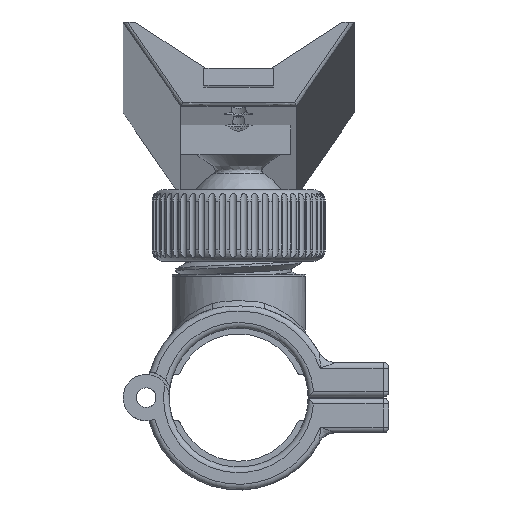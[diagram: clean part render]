
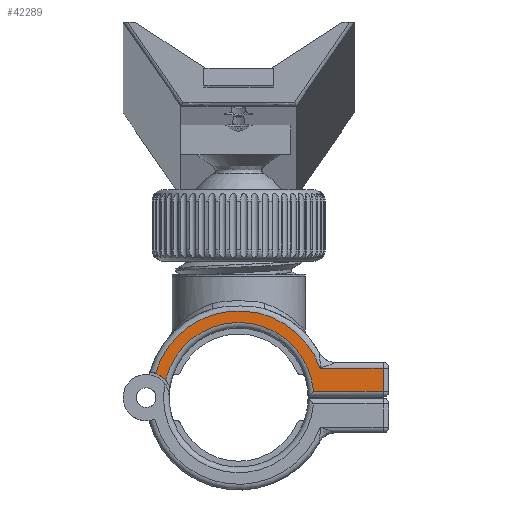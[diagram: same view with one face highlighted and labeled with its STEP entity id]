
A CAD part, left-side view. The second image highlights one B-rep face of the part: STEP entity #42289.
In plain terms, the highlighted planar face has unit normal (-1, 0, 0).
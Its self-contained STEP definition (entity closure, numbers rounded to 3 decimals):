
#38614 = TOROIDAL_SURFACE('',#38615,13.,1.);
#38615 = AXIS2_PLACEMENT_3D('',#38616,#38617,#38618);
#38616 = CARTESIAN_POINT('',(1.,0.,0.));
#38617 = DIRECTION('',(1.,0.,0.));
#38618 = DIRECTION('',(0.,0.989,0.148));
#38854 = CYLINDRICAL_SURFACE('',#38855,4.5);
#38855 = AXIS2_PLACEMENT_3D('',#38856,#38857,#38858);
#38856 = CARTESIAN_POINT('',(0.,16.,0.));
#38857 = DIRECTION('',(-1.,-0.,-0.));
#38858 = DIRECTION('',(0.,1.,0.));
#39251 = VERTEX_POINT('',#39252);
#39252 = CARTESIAN_POINT('',(0.,-12.953,1.1));
#39312 = CYLINDRICAL_SURFACE('',#39313,1.);
#39313 = AXIS2_PLACEMENT_3D('',#39314,#39315,#39316);
#39314 = CARTESIAN_POINT('',(1.,-12.,1.1));
#39315 = DIRECTION('',(0.,-1.,0.));
#39316 = DIRECTION('',(-1.,0.,0.));
#39347 = EDGE_CURVE('',#39348,#39251,#39350,.T.);
#39348 = VERTEX_POINT('',#39349);
#39349 = CARTESIAN_POINT('',(0.,12.648,3.003));
#39350 = SURFACE_CURVE('',#39351,(#39356,#39363),.PCURVE_S1.);
#39351 = CIRCLE('',#39352,13.);
#39352 = AXIS2_PLACEMENT_3D('',#39353,#39354,#39355);
#39353 = CARTESIAN_POINT('',(0.,0.,0.));
#39354 = DIRECTION('',(1.,0.,-0.));
#39355 = DIRECTION('',(0.,0.989,0.148));
#39356 = PCURVE('',#38614,#39357);
#39357 = DEFINITIONAL_REPRESENTATION('',(#39358),#39362);
#39358 = LINE('',#39359,#39360);
#39359 = CARTESIAN_POINT('',(0.,4.712));
#39360 = VECTOR('',#39361,1.);
#39361 = DIRECTION('',(1.,0.));
#39362 = ( GEOMETRIC_REPRESENTATION_CONTEXT(2) 
PARAMETRIC_REPRESENTATION_CONTEXT() REPRESENTATION_CONTEXT('2D SPACE',''
  ) );
#39363 = PCURVE('',#39364,#39369);
#39364 = PLANE('',#39365);
#39365 = AXIS2_PLACEMENT_3D('',#39366,#39367,#39368);
#39366 = CARTESIAN_POINT('',(0.,-5.37,7.352));
#39367 = DIRECTION('',(-1.,0.,-0.));
#39368 = DIRECTION('',(0.,1.,0.));
#39369 = DEFINITIONAL_REPRESENTATION('',(#39370),#39378);
#39370 = ( BOUNDED_CURVE() B_SPLINE_CURVE(2,(#39371,#39372,#39373,#39374
    ,#39375,#39376,#39377),.UNSPECIFIED.,.T.,.F.) 
B_SPLINE_CURVE_WITH_KNOTS((1,2,2,2,2,1),(-2.094,0.,
    2.094,4.189,6.283,8.378),
.UNSPECIFIED.) CURVE() GEOMETRIC_REPRESENTATION_ITEM() 
RATIONAL_B_SPLINE_CURVE((1.,0.5,1.,0.5,1.,0.5,1.)) REPRESENTATION_ITEM(
  '') );
#39371 = CARTESIAN_POINT('',(18.226,5.423));
#39372 = CARTESIAN_POINT('',(14.885,-16.845));
#39373 = CARTESIAN_POINT('',(-2.729,-2.818));
#39374 = CARTESIAN_POINT('',(-20.343,11.209));
#39375 = CARTESIAN_POINT('',(0.612,19.45));
#39376 = CARTESIAN_POINT('',(21.567,27.69));
#39377 = CARTESIAN_POINT('',(18.226,5.423));
#39378 = ( GEOMETRIC_REPRESENTATION_CONTEXT(2) 
PARAMETRIC_REPRESENTATION_CONTEXT() REPRESENTATION_CONTEXT('2D SPACE',''
  ) );
#39476 = EDGE_CURVE('',#39477,#39348,#39479,.T.);
#39477 = VERTEX_POINT('',#39478);
#39478 = CARTESIAN_POINT('',(0.,14.398,4.205));
#39479 = SURFACE_CURVE('',#39480,(#39485,#39492),.PCURVE_S1.);
#39480 = CIRCLE('',#39481,4.5);
#39481 = AXIS2_PLACEMENT_3D('',#39482,#39483,#39484);
#39482 = CARTESIAN_POINT('',(0.,16.,0.));
#39483 = DIRECTION('',(1.,0.,0.));
#39484 = DIRECTION('',(0.,1.,0.));
#39485 = PCURVE('',#38854,#39486);
#39486 = DEFINITIONAL_REPRESENTATION('',(#39487),#39491);
#39487 = LINE('',#39488,#39489);
#39488 = CARTESIAN_POINT('',(-0.,0.));
#39489 = VECTOR('',#39490,1.);
#39490 = DIRECTION('',(-1.,0.));
#39491 = ( GEOMETRIC_REPRESENTATION_CONTEXT(2) 
PARAMETRIC_REPRESENTATION_CONTEXT() REPRESENTATION_CONTEXT('2D SPACE',''
  ) );
#39492 = PCURVE('',#39364,#39493);
#39493 = DEFINITIONAL_REPRESENTATION('',(#39494),#39502);
#39494 = ( BOUNDED_CURVE() B_SPLINE_CURVE(2,(#39495,#39496,#39497,#39498
    ,#39499,#39500,#39501),.UNSPECIFIED.,.T.,.F.) 
B_SPLINE_CURVE_WITH_KNOTS((1,2,2,2,2,1),(-2.094,0.,
    2.094,4.189,6.283,8.378),
.UNSPECIFIED.) CURVE() GEOMETRIC_REPRESENTATION_ITEM() 
RATIONAL_B_SPLINE_CURVE((1.,0.5,1.,0.5,1.,0.5,1.)) REPRESENTATION_ITEM(
  '') );
#39495 = CARTESIAN_POINT('',(25.87,7.352));
#39496 = CARTESIAN_POINT('',(25.87,-0.443));
#39497 = CARTESIAN_POINT('',(19.12,3.454));
#39498 = CARTESIAN_POINT('',(12.37,7.352));
#39499 = CARTESIAN_POINT('',(19.12,11.249));
#39500 = CARTESIAN_POINT('',(25.87,15.146));
#39501 = CARTESIAN_POINT('',(25.87,7.352));
#39502 = ( GEOMETRIC_REPRESENTATION_CONTEXT(2) 
PARAMETRIC_REPRESENTATION_CONTEXT() REPRESENTATION_CONTEXT('2D SPACE',''
  ) );
#39558 = TOROIDAL_SURFACE('',#39559,15.,1.);
#39559 = AXIS2_PLACEMENT_3D('',#39560,#39561,#39562);
#39560 = CARTESIAN_POINT('',(1.,0.,0.));
#39561 = DIRECTION('',(-1.,0.,-0.));
#39562 = DIRECTION('',(0.,0.96,0.278));
#42289 = ADVANCED_FACE('',(#42290),#39364,.T.);
#42290 = FACE_BOUND('',#42291,.T.);
#42291 = EDGE_LOOP('',(#42292,#42293,#42294,#42317,#42345,#42373));
#42292 = ORIENTED_EDGE('',*,*,#39476,.T.);
#42293 = ORIENTED_EDGE('',*,*,#39347,.T.);
#42294 = ORIENTED_EDGE('',*,*,#42295,.T.);
#42295 = EDGE_CURVE('',#39251,#42296,#42298,.T.);
#42296 = VERTEX_POINT('',#42297);
#42297 = CARTESIAN_POINT('',(0.,-25.,1.1));
#42298 = SURFACE_CURVE('',#42299,(#42303,#42310),.PCURVE_S1.);
#42299 = LINE('',#42300,#42301);
#42300 = CARTESIAN_POINT('',(0.,-12.,1.1));
#42301 = VECTOR('',#42302,1.);
#42302 = DIRECTION('',(0.,-1.,0.));
#42303 = PCURVE('',#39364,#42304);
#42304 = DEFINITIONAL_REPRESENTATION('',(#42305),#42309);
#42305 = LINE('',#42306,#42307);
#42306 = CARTESIAN_POINT('',(-6.63,6.252));
#42307 = VECTOR('',#42308,1.);
#42308 = DIRECTION('',(-1.,0.));
#42309 = ( GEOMETRIC_REPRESENTATION_CONTEXT(2) 
PARAMETRIC_REPRESENTATION_CONTEXT() REPRESENTATION_CONTEXT('2D SPACE',''
  ) );
#42310 = PCURVE('',#39312,#42311);
#42311 = DEFINITIONAL_REPRESENTATION('',(#42312),#42316);
#42312 = LINE('',#42313,#42314);
#42313 = CARTESIAN_POINT('',(0.,0.));
#42314 = VECTOR('',#42315,1.);
#42315 = DIRECTION('',(0.,1.));
#42316 = ( GEOMETRIC_REPRESENTATION_CONTEXT(2) 
PARAMETRIC_REPRESENTATION_CONTEXT() REPRESENTATION_CONTEXT('2D SPACE',''
  ) );
#42317 = ORIENTED_EDGE('',*,*,#42318,.T.);
#42318 = EDGE_CURVE('',#42296,#42319,#42321,.T.);
#42319 = VERTEX_POINT('',#42320);
#42320 = CARTESIAN_POINT('',(0.,-25.,5.1));
#42321 = SURFACE_CURVE('',#42322,(#42326,#42333),.PCURVE_S1.);
#42322 = LINE('',#42323,#42324);
#42323 = CARTESIAN_POINT('',(0.,-25.,0.1));
#42324 = VECTOR('',#42325,1.);
#42325 = DIRECTION('',(0.,0.,1.));
#42326 = PCURVE('',#39364,#42327);
#42327 = DEFINITIONAL_REPRESENTATION('',(#42328),#42332);
#42328 = LINE('',#42329,#42330);
#42329 = CARTESIAN_POINT('',(-19.63,7.252));
#42330 = VECTOR('',#42331,1.);
#42331 = DIRECTION('',(0.,-1.));
#42332 = ( GEOMETRIC_REPRESENTATION_CONTEXT(2) 
PARAMETRIC_REPRESENTATION_CONTEXT() REPRESENTATION_CONTEXT('2D SPACE',''
  ) );
#42333 = PCURVE('',#42334,#42339);
#42334 = CYLINDRICAL_SURFACE('',#42335,1.);
#42335 = AXIS2_PLACEMENT_3D('',#42336,#42337,#42338);
#42336 = CARTESIAN_POINT('',(1.,-25.,0.1));
#42337 = DIRECTION('',(0.,0.,1.));
#42338 = DIRECTION('',(0.,-1.,0.));
#42339 = DEFINITIONAL_REPRESENTATION('',(#42340),#42344);
#42340 = LINE('',#42341,#42342);
#42341 = CARTESIAN_POINT('',(-1.571,0.));
#42342 = VECTOR('',#42343,1.);
#42343 = DIRECTION('',(-0.,1.));
#42344 = ( GEOMETRIC_REPRESENTATION_CONTEXT(2) 
PARAMETRIC_REPRESENTATION_CONTEXT() REPRESENTATION_CONTEXT('2D SPACE',''
  ) );
#42345 = ORIENTED_EDGE('',*,*,#42346,.F.);
#42346 = EDGE_CURVE('',#42347,#42319,#42349,.T.);
#42347 = VERTEX_POINT('',#42348);
#42348 = CARTESIAN_POINT('',(0.,-14.106,5.1));
#42349 = SURFACE_CURVE('',#42350,(#42354,#42361),.PCURVE_S1.);
#42350 = LINE('',#42351,#42352);
#42351 = CARTESIAN_POINT('',(0.,-14.792,5.1));
#42352 = VECTOR('',#42353,1.);
#42353 = DIRECTION('',(0.,-1.,0.));
#42354 = PCURVE('',#39364,#42355);
#42355 = DEFINITIONAL_REPRESENTATION('',(#42356),#42360);
#42356 = LINE('',#42357,#42358);
#42357 = CARTESIAN_POINT('',(-9.422,2.252));
#42358 = VECTOR('',#42359,1.);
#42359 = DIRECTION('',(-1.,0.));
#42360 = ( GEOMETRIC_REPRESENTATION_CONTEXT(2) 
PARAMETRIC_REPRESENTATION_CONTEXT() REPRESENTATION_CONTEXT('2D SPACE',''
  ) );
#42361 = PCURVE('',#42362,#42367);
#42362 = CYLINDRICAL_SURFACE('',#42363,1.);
#42363 = AXIS2_PLACEMENT_3D('',#42364,#42365,#42366);
#42364 = CARTESIAN_POINT('',(1.,-14.792,5.1));
#42365 = DIRECTION('',(0.,-1.,0.));
#42366 = DIRECTION('',(0.,0.,1.));
#42367 = DEFINITIONAL_REPRESENTATION('',(#42368),#42372);
#42368 = LINE('',#42369,#42370);
#42369 = CARTESIAN_POINT('',(1.571,0.));
#42370 = VECTOR('',#42371,1.);
#42371 = DIRECTION('',(0.,1.));
#42372 = ( GEOMETRIC_REPRESENTATION_CONTEXT(2) 
PARAMETRIC_REPRESENTATION_CONTEXT() REPRESENTATION_CONTEXT('2D SPACE',''
  ) );
#42373 = ORIENTED_EDGE('',*,*,#42374,.F.);
#42374 = EDGE_CURVE('',#39477,#42347,#42375,.T.);
#42375 = SURFACE_CURVE('',#42376,(#42381,#42392),.PCURVE_S1.);
#42376 = CIRCLE('',#42377,15.);
#42377 = AXIS2_PLACEMENT_3D('',#42378,#42379,#42380);
#42378 = CARTESIAN_POINT('',(0.,0.,0.));
#42379 = DIRECTION('',(1.,0.,-0.));
#42380 = DIRECTION('',(0.,0.96,0.278));
#42381 = PCURVE('',#39364,#42382);
#42382 = DEFINITIONAL_REPRESENTATION('',(#42383),#42391);
#42383 = ( BOUNDED_CURVE() B_SPLINE_CURVE(2,(#42384,#42385,#42386,#42387
    ,#42388,#42389,#42390),.UNSPECIFIED.,.T.,.F.) 
B_SPLINE_CURVE_WITH_KNOTS((1,2,2,2,2,1),(-2.094,0.,
    2.094,4.189,6.283,8.378),
.UNSPECIFIED.) CURVE() GEOMETRIC_REPRESENTATION_ITEM() 
RATIONAL_B_SPLINE_CURVE((1.,0.5,1.,0.5,1.,0.5,1.)) REPRESENTATION_ITEM(
  '') );
#42384 = CARTESIAN_POINT('',(19.776,3.175));
#42385 = CARTESIAN_POINT('',(12.542,-21.778));
#42386 = CARTESIAN_POINT('',(-5.451,-3.037));
#42387 = CARTESIAN_POINT('',(-23.444,15.705));
#42388 = CARTESIAN_POINT('',(1.784,21.917));
#42389 = CARTESIAN_POINT('',(27.011,28.128));
#42390 = CARTESIAN_POINT('',(19.776,3.175));
#42391 = ( GEOMETRIC_REPRESENTATION_CONTEXT(2) 
PARAMETRIC_REPRESENTATION_CONTEXT() REPRESENTATION_CONTEXT('2D SPACE',''
  ) );
#42392 = PCURVE('',#39558,#42393);
#42393 = DEFINITIONAL_REPRESENTATION('',(#42394),#42398);
#42394 = LINE('',#42395,#42396);
#42395 = CARTESIAN_POINT('',(-0.,1.571));
#42396 = VECTOR('',#42397,1.);
#42397 = DIRECTION('',(-1.,0.));
#42398 = ( GEOMETRIC_REPRESENTATION_CONTEXT(2) 
PARAMETRIC_REPRESENTATION_CONTEXT() REPRESENTATION_CONTEXT('2D SPACE',''
  ) );
